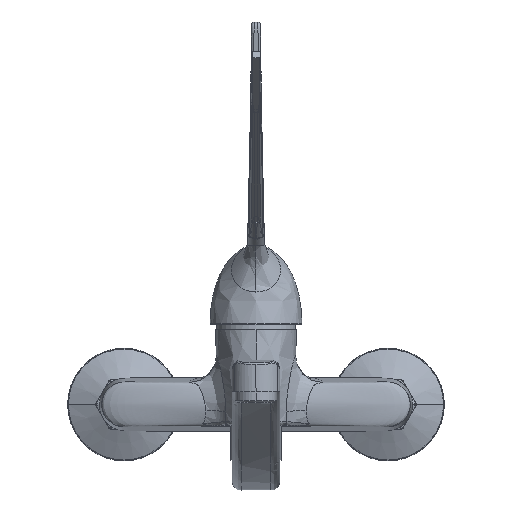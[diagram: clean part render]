
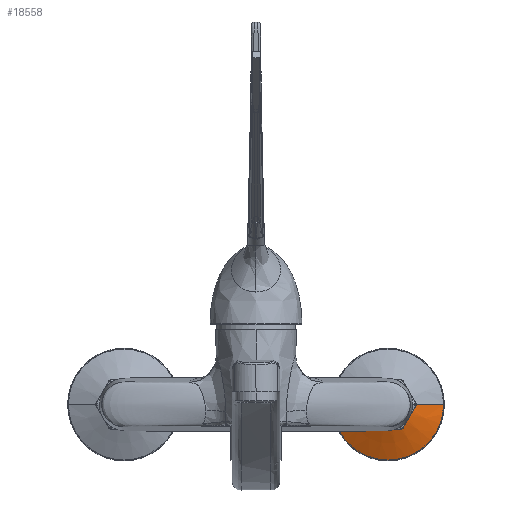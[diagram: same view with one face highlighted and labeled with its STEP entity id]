
A CAD part, top view. The second image highlights one B-rep face of the part: STEP entity #18558.
In plain terms, the highlighted conical face has half-angle 65.2 degrees and reference radius 32 mm.
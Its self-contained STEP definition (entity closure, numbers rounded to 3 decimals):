
#276 = ORIENTED_EDGE ( 'NONE', *, *, #24412, .T. ) ;
#1049 = ORIENTED_EDGE ( 'NONE', *, *, #25233, .T. ) ;
#1261 = AXIS2_PLACEMENT_3D ( 'NONE', #28699, #31928, #2432 ) ;
#2432 = DIRECTION ( 'NONE',  ( -1., 0., 0. ) ) ;
#6895 = FACE_OUTER_BOUND ( 'NONE', #37981, .T. ) ;
#7220 = EDGE_CURVE ( 'NONE', #14670, #19249, #17219, .T. ) ;
#7860 = CARTESIAN_POINT ( 'NONE',  ( 43., 0., 7. ) ) ;
#9310 = ORIENTED_EDGE ( 'NONE', *, *, #7220, .T. ) ;
#9391 = VECTOR ( 'NONE', #31382, 1000. ) ;
#10186 = EDGE_CURVE ( 'NONE', #21330, #28776, #31388, .T. ) ;
#10603 = CIRCLE ( 'NONE', #1261, 12.642 ) ;
#11716 = AXIS2_PLACEMENT_3D ( 'NONE', #12256, #11876, #17650 ) ;
#11876 = DIRECTION ( 'NONE',  ( 0., 0., 1. ) ) ;
#12256 = CARTESIAN_POINT ( 'NONE',  ( 75., 0., 7.166 ) ) ;
#12990 = CARTESIAN_POINT ( 'NONE',  ( 62.358, 0., 15.945 ) ) ;
#14670 = VERTEX_POINT ( 'NONE', #12990 ) ;
#15661 = ORIENTED_EDGE ( 'NONE', *, *, #10186, .F. ) ;
#16468 = DIRECTION ( 'NONE',  ( 0., 0., -1. ) ) ;
#17219 = LINE ( 'NONE', #7860, #9391 ) ;
#17650 = DIRECTION ( 'NONE',  ( 1., 0., 0. ) ) ;
#18016 = CARTESIAN_POINT ( 'NONE',  ( 107., 0., 7. ) ) ;
#18558 = ADVANCED_FACE ( 'NONE', ( #6895 ), #30799, .T. ) ;
#19249 = VERTEX_POINT ( 'NONE', #31722 ) ;
#20865 = AXIS2_PLACEMENT_3D ( 'NONE', #27915, #16468, #33832 ) ;
#21330 = VERTEX_POINT ( 'NONE', #22849 ) ;
#21348 = DIRECTION ( 'NONE',  ( 0.908, 0., -0.419 ) ) ;
#22849 = CARTESIAN_POINT ( 'NONE',  ( 87.642, 0., 15.945 ) ) ;
#24412 = EDGE_CURVE ( 'NONE', #21330, #14670, #10603, .T. ) ;
#25233 = EDGE_CURVE ( 'NONE', #19249, #28776, #26260, .T. ) ;
#26260 = CIRCLE ( 'NONE', #11716, 31.64 ) ;
#27915 = CARTESIAN_POINT ( 'NONE',  ( 75., 0., 7. ) ) ;
#28699 = CARTESIAN_POINT ( 'NONE',  ( 75., 0., 15.945 ) ) ;
#28776 = VERTEX_POINT ( 'NONE', #34631 ) ;
#30799 = CONICAL_SURFACE ( 'NONE', #20865, 32., 1.138 ) ;
#31382 = DIRECTION ( 'NONE',  ( -0.908, 0., -0.419 ) ) ;
#31388 = LINE ( 'NONE', #18016, #35095 ) ;
#31722 = CARTESIAN_POINT ( 'NONE',  ( 43.36, 0., 7.166 ) ) ;
#31928 = DIRECTION ( 'NONE',  ( 0., 0., -1. ) ) ;
#33832 = DIRECTION ( 'NONE',  ( 1., 0., 0. ) ) ;
#34631 = CARTESIAN_POINT ( 'NONE',  ( 106.64, 0., 7.166 ) ) ;
#35095 = VECTOR ( 'NONE', #21348, 1000. ) ;
#37981 = EDGE_LOOP ( 'NONE', ( #276, #9310, #1049, #15661 ) ) ;
